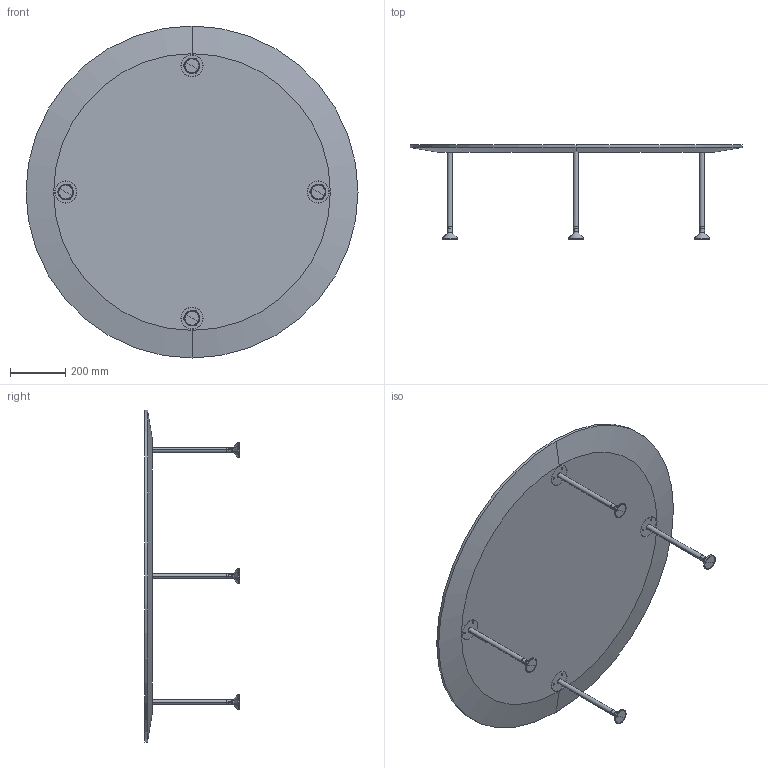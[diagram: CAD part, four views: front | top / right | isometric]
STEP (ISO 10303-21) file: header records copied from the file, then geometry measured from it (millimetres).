
FILE_DESCRIPTION (( 'STEP AP214' ), '1' );
FILE_NAME ('RoundØ1200leg340.STEP', '2017-05-28T19:16:16', ( '' ), ( '' ), 'SwSTEP 2.0', 'SolidWorks 2016', '' );
FILE_SCHEMA (( 'AUTOMOTIVE_DESIGN' ));
Length unit declared in the file: millimetre
Products named in the file (3): ben340; Round ﾘ1200; RoundØ1200leg340
Assembly tree (5 placements, depth 2):
  RoundØ1200leg340
    Round ﾘ1200
    ben340  x4
Bounding box: 1200 x 341 x 1200 mm (x, y, z)
Volume: 26781421.7 mm3; surface area: 2512545.9 mm2
Topology: 13 solids, 13 shells, 130 faces, 306 edges, 190 vertices
Faces by surface type: cylinder 66, bspline 40, plane 22, cone 2
Entity records: 2452 total; most frequent: CARTESIAN_POINT 1328, DIRECTION 214, ORIENTED_EDGE 196, EDGE_CURVE 98, AXIS2_PLACEMENT_3D 94, VERTEX_POINT 64, EDGE_LOOP 60, CIRCLE 50
